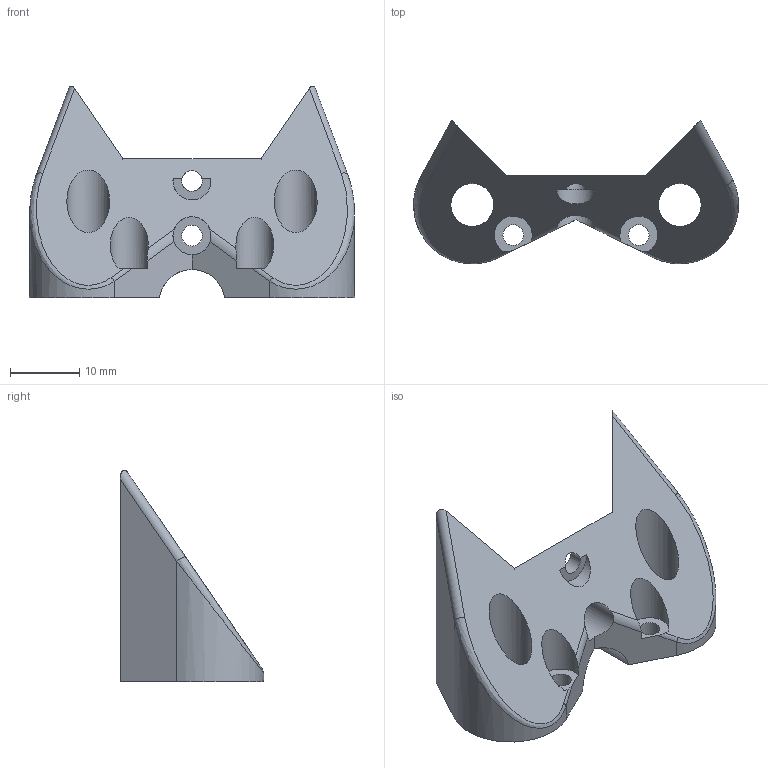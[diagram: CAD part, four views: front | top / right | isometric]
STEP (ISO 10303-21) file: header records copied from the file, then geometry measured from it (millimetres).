
FILE_DESCRIPTION(/* description */ (''),/* implementation_level */ '2;1');
FILE_NAME(/* name */ 'D:/Pew Pews/FGC-9_MkII_Stingray_Edition/Stingray Edition/.step files/3 - Buffer Tube and Stock/Buffer Tube/Locking Tab end cap.step',/* time_stamp */ '2022-05-12T09:47:11-06:00',/* author */ (''),/* organization */ (''),/* preprocessor_version */ 'ST-DEVELOPER v18.1',/* originating_system */ 'Autodesk Translation Framework v10.10.0.1391',/* authorisation */ '');
FILE_SCHEMA (('AUTOMOTIVE_DESIGN { 1 0 10303 214 3 1 1 }'));
Length unit declared in the file: millimetre
Products named in the file (1): Buffer tube end cap
Bounding box: 47 x 20.72 x 30.61 mm (x, y, z)
Volume: 6825.6 mm3; surface area: 4088 mm2
Topology: 1 solids, 1 shells, 35 faces, 95 edges, 62 vertices
Faces by surface type: cylinder 19, plane 14, bspline 2
Full cylindrical faces by diameter (mm): 3 x4, 5.5 x1, 6.2 x2
Entity records: 1281 total; most frequent: CARTESIAN_POINT 308, DIRECTION 199, ORIENTED_EDGE 190, EDGE_CURVE 95, AXIS2_PLACEMENT_3D 75, VERTEX_POINT 62, LINE 49, VECTOR 49
